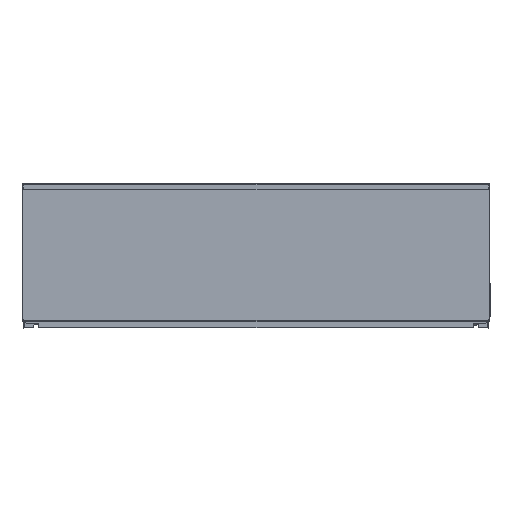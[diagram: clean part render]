
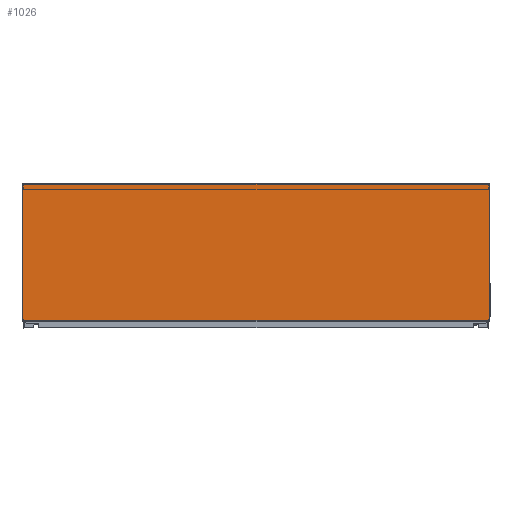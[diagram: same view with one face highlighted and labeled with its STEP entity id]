
A CAD part, top view. The second image highlights one B-rep face of the part: STEP entity #1026.
In plain terms, the highlighted planar face has unit normal (0, 0, 1) as drawn and (0, 0, -1) by its records, which use the part's own axes.
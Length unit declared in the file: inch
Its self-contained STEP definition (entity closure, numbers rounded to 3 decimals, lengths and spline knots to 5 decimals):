
#477 = LINE ( 'NONE', #18522, #15223 ) ;
#778 = EDGE_LOOP ( 'NONE', ( #18113, #10778, #17528, #14750, #23425, #25131, #20245, #13038, #9522, #23169, #27896, #20825 ) ) ;
#1026 = ADVANCED_FACE ( 'NONE', ( #25739 ), #5991, .T. ) ;
#1833 = CARTESIAN_POINT ( 'NONE',  ( 30.66192, 50.57695, 0. ) ) ;
#1966 = VERTEX_POINT ( 'NONE', #26200 ) ;
#2588 = EDGE_CURVE ( 'NONE', #18031, #15725, #21885, .T. ) ;
#3460 = LINE ( 'NONE', #19016, #11497 ) ;
#4370 = VECTOR ( 'NONE', #22166, 39.37008 ) ;
#4639 = VECTOR ( 'NONE', #21947, 39.37008 ) ;
#4929 = CARTESIAN_POINT ( 'NONE',  ( 44.47579, 50.48499, 0. ) ) ;
#5206 = VERTEX_POINT ( 'NONE', #22476 ) ;
#5931 = DIRECTION ( 'NONE',  ( -1., 0., 0. ) ) ;
#5958 = DIRECTION ( 'NONE',  ( 0., 0., -1. ) ) ;
#5991 = PLANE ( 'NONE',  #7247 ) ;
#6091 = CARTESIAN_POINT ( 'NONE',  ( 44.47579, 50.48499, 0. ) ) ;
#6979 = LINE ( 'NONE', #22104, #19579 ) ;
#7247 = AXIS2_PLACEMENT_3D ( 'NONE', #6091, #5958, #5931 ) ;
#7385 = VERTEX_POINT ( 'NONE', #1833 ) ;
#8618 = CARTESIAN_POINT ( 'NONE',  ( 30.67809, 3.01307, 0. ) ) ;
#9522 = ORIENTED_EDGE ( 'NONE', *, *, #26525, .T. ) ;
#9777 = LINE ( 'NONE', #19369, #13945 ) ;
#10104 = CARTESIAN_POINT ( 'NONE',  ( 44.47579, 50.59312, 0. ) ) ;
#10778 = ORIENTED_EDGE ( 'NONE', *, *, #26648, .T. ) ;
#11497 = VECTOR ( 'NONE', #19248, 39.37008 ) ;
#11553 = CARTESIAN_POINT ( 'NONE',  ( 30.67809, 3.02925, 0. ) ) ;
#11565 = VERTEX_POINT ( 'NONE', #4929 ) ;
#12037 = VERTEX_POINT ( 'NONE', #11553 ) ;
#12859 = VERTEX_POINT ( 'NONE', #19296 ) ;
#13038 = ORIENTED_EDGE ( 'NONE', *, *, #26488, .T. ) ;
#13240 = VERTEX_POINT ( 'NONE', #10104 ) ;
#13286 = VERTEX_POINT ( 'NONE', #8618 ) ;
#13340 = LINE ( 'NONE', #19270, #20706 ) ;
#13798 = VECTOR ( 'NONE', #14738, 39.37008 ) ;
#13945 = VECTOR ( 'NONE', #19281, 39.37008 ) ;
#14027 = VERTEX_POINT ( 'NONE', #16800 ) ;
#14738 = DIRECTION ( 'NONE',  ( -1., 0., 0. ) ) ;
#14750 = ORIENTED_EDGE ( 'NONE', *, *, #2588, .T. ) ;
#14768 = CARTESIAN_POINT ( 'NONE',  ( 44.47579, 3.1212, 0. ) ) ;
#14984 = VERTEX_POINT ( 'NONE', #19569 ) ;
#15223 = VECTOR ( 'NONE', #19070, 39.37008 ) ;
#15661 = CARTESIAN_POINT ( 'NONE',  ( 44.50021, 3.1212, 0. ) ) ;
#15725 = VERTEX_POINT ( 'NONE', #26518 ) ;
#16488 = DIRECTION ( 'NONE',  ( 1., 0., 0. ) ) ;
#16580 = CARTESIAN_POINT ( 'NONE',  ( 44.47579, 50.48499, 0. ) ) ;
#16800 = CARTESIAN_POINT ( 'NONE',  ( 44.50021, 50.48499, 0. ) ) ;
#17528 = ORIENTED_EDGE ( 'NONE', *, *, #26292, .T. ) ;
#17601 = VECTOR ( 'NONE', #18701, 39.37008 ) ;
#18031 = VERTEX_POINT ( 'NONE', #15661 ) ;
#18113 = ORIENTED_EDGE ( 'NONE', *, *, #26607, .T. ) ;
#18169 = LINE ( 'NONE', #27053, #17601 ) ;
#18522 = CARTESIAN_POINT ( 'NONE',  ( 44.47579, 50.48499, 0. ) ) ;
#18701 = DIRECTION ( 'NONE',  ( 1., 0., 0. ) ) ;
#18871 = VECTOR ( 'NONE', #19887, 39.37008 ) ;
#19016 = CARTESIAN_POINT ( 'NONE',  ( 30.67809, 50.48499, 0. ) ) ;
#19070 = DIRECTION ( 'NONE',  ( 0., -1., 0. ) ) ;
#19191 = DIRECTION ( 'NONE',  ( 1., 0., 0. ) ) ;
#19248 = DIRECTION ( 'NONE',  ( 0., 1., 0. ) ) ;
#19270 = CARTESIAN_POINT ( 'NONE',  ( 44.47579, 50.57695, 0. ) ) ;
#19281 = DIRECTION ( 'NONE',  ( 0., 1., 0. ) ) ;
#19296 = CARTESIAN_POINT ( 'NONE',  ( 30.67809, 50.57695, 0. ) ) ;
#19369 = CARTESIAN_POINT ( 'NONE',  ( 30.66192, 50.48499, 0. ) ) ;
#19569 = CARTESIAN_POINT ( 'NONE',  ( 30.66192, 3.02925, 0. ) ) ;
#19579 = VECTOR ( 'NONE', #22262, 39.37008 ) ;
#19641 = CARTESIAN_POINT ( 'NONE',  ( 44.47579, 3.02925, 0. ) ) ;
#19887 = DIRECTION ( 'NONE',  ( -1., 0., 0. ) ) ;
#20245 = ORIENTED_EDGE ( 'NONE', *, *, #26410, .T. ) ;
#20706 = VECTOR ( 'NONE', #19191, 39.37008 ) ;
#20825 = ORIENTED_EDGE ( 'NONE', *, *, #26603, .T. ) ;
#21165 = LINE ( 'NONE', #22076, #4639 ) ;
#21504 = VECTOR ( 'NONE', #16488, 39.37008 ) ;
#21885 = LINE ( 'NONE', #14768, #13798 ) ;
#21947 = DIRECTION ( 'NONE',  ( 0., 1., 0. ) ) ;
#22076 = CARTESIAN_POINT ( 'NONE',  ( 30.67809, 50.48499, 0. ) ) ;
#22104 = CARTESIAN_POINT ( 'NONE',  ( 44.47579, 3.01307, 0. ) ) ;
#22166 = DIRECTION ( 'NONE',  ( 0., -1., 0. ) ) ;
#22205 = CARTESIAN_POINT ( 'NONE',  ( 44.47579, 50.48499, 0. ) ) ;
#22262 = DIRECTION ( 'NONE',  ( -1., 0., 0. ) ) ;
#22411 = LINE ( 'NONE', #22823, #24228 ) ;
#22476 = CARTESIAN_POINT ( 'NONE',  ( 44.47579, 3.01307, 0. ) ) ;
#22823 = CARTESIAN_POINT ( 'NONE',  ( 44.50021, 50.48499, 0. ) ) ;
#22882 = DIRECTION ( 'NONE',  ( 0., -1., 0. ) ) ;
#23112 = LINE ( 'NONE', #19641, #18871 ) ;
#23169 = ORIENTED_EDGE ( 'NONE', *, *, #26528, .T. ) ;
#23425 = ORIENTED_EDGE ( 'NONE', *, *, #26370, .T. ) ;
#24228 = VECTOR ( 'NONE', #22882, 39.37008 ) ;
#25131 = ORIENTED_EDGE ( 'NONE', *, *, #26404, .T. ) ;
#25739 = FACE_OUTER_BOUND ( 'NONE', #778, .T. ) ;
#25776 = LINE ( 'NONE', #22205, #4370 ) ;
#26200 = CARTESIAN_POINT ( 'NONE',  ( 30.67809, 50.59312, 0. ) ) ;
#26292 = EDGE_CURVE ( 'NONE', #14027, #18031, #22411, .T. ) ;
#26370 = EDGE_CURVE ( 'NONE', #15725, #5206, #25776, .T. ) ;
#26404 = EDGE_CURVE ( 'NONE', #5206, #13286, #6979, .T. ) ;
#26410 = EDGE_CURVE ( 'NONE', #13286, #12037, #21165, .T. ) ;
#26488 = EDGE_CURVE ( 'NONE', #12037, #14984, #23112, .T. ) ;
#26518 = CARTESIAN_POINT ( 'NONE',  ( 44.47579, 3.1212, 0. ) ) ;
#26525 = EDGE_CURVE ( 'NONE', #14984, #7385, #9777, .T. ) ;
#26528 = EDGE_CURVE ( 'NONE', #7385, #12859, #13340, .T. ) ;
#26567 = EDGE_CURVE ( 'NONE', #12859, #1966, #3460, .T. ) ;
#26603 = EDGE_CURVE ( 'NONE', #1966, #13240, #18169, .T. ) ;
#26607 = EDGE_CURVE ( 'NONE', #13240, #11565, #477, .T. ) ;
#26648 = EDGE_CURVE ( 'NONE', #11565, #14027, #27036, .T. ) ;
#27036 = LINE ( 'NONE', #16580, #21504 ) ;
#27053 = CARTESIAN_POINT ( 'NONE',  ( 44.47579, 50.59312, 0. ) ) ;
#27896 = ORIENTED_EDGE ( 'NONE', *, *, #26567, .T. ) ;
